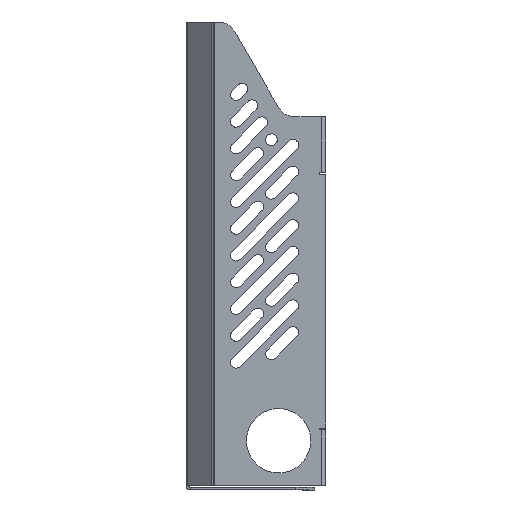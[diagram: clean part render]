
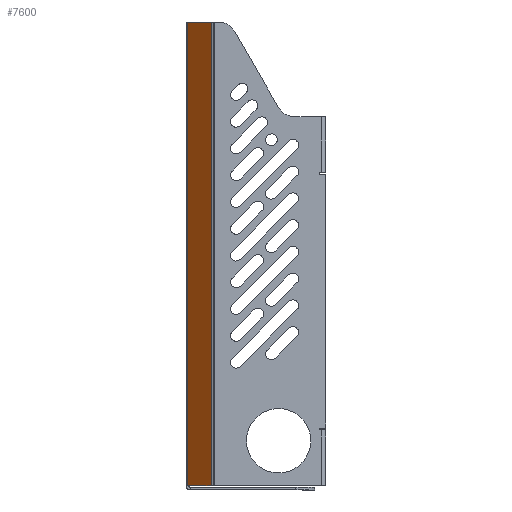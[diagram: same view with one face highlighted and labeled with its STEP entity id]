
A CAD part, left-side view. The second image highlights one B-rep face of the part: STEP entity #7600.
In plain terms, the highlighted planar face has unit normal (-0.707, 0.707, 0).
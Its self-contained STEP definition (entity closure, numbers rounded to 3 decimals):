
#57 = EDGE_CURVE ( 'NONE', #1929, #2245, #8469, .T. ) ;
#263 = CARTESIAN_POINT ( 'NONE',  ( -219.619, -13.498, -97.5 ) ) ;
#1063 = EDGE_CURVE ( 'NONE', #5464, #2245, #8307, .T. ) ;
#1428 = EDGE_CURVE ( 'NONE', #1929, #11400, #8061, .T. ) ;
#1459 = ORIENTED_EDGE ( 'NONE', *, *, #1063, .F. ) ;
#1504 = CARTESIAN_POINT ( 'NONE',  ( -217.899, -11.778, -97.5 ) ) ;
#1506 = DIRECTION ( 'NONE',  ( 0.707, 0.707, 0. ) ) ;
#1929 = VERTEX_POINT ( 'NONE', #1504 ) ;
#1951 = CARTESIAN_POINT ( 'NONE',  ( -205.28, 0.841, 147.5 ) ) ;
#2155 = CARTESIAN_POINT ( 'NONE',  ( -205.28, 0.841, 97.5 ) ) ;
#2188 = DIRECTION ( 'NONE',  ( -0.707, -0.707, 0. ) ) ;
#2245 = VERTEX_POINT ( 'NONE', #7374 ) ;
#2444 = VECTOR ( 'NONE', #2188, 1000. ) ;
#2497 = PLANE ( 'NONE',  #6474 ) ;
#2646 = VECTOR ( 'NONE', #10636, 1000. ) ;
#2729 = EDGE_LOOP ( 'NONE', ( #1459, #5041, #4734, #8347 ) ) ;
#3120 = CARTESIAN_POINT ( 'NONE',  ( -98.061, 108.061, 147.5 ) ) ;
#4093 = DIRECTION ( 'NONE',  ( 0., 0., 1. ) ) ;
#4734 = ORIENTED_EDGE ( 'NONE', *, *, #1428, .F. ) ;
#5041 = ORIENTED_EDGE ( 'NONE', *, *, #10682, .F. ) ;
#5059 = CARTESIAN_POINT ( 'NONE',  ( -98.061, 108.061, 0. ) ) ;
#5464 = VERTEX_POINT ( 'NONE', #1951 ) ;
#6474 = AXIS2_PLACEMENT_3D ( 'NONE', #5059, #8617, #1506 ) ;
#7374 = CARTESIAN_POINT ( 'NONE',  ( -217.899, -11.778, 147.5 ) ) ;
#7600 = ADVANCED_FACE ( 'NONE', ( #11421 ), #2497, .F. ) ;
#8061 = LINE ( 'NONE', #263, #2646 ) ;
#8307 = LINE ( 'NONE', #3120, #2444 ) ;
#8347 = ORIENTED_EDGE ( 'NONE', *, *, #57, .T. ) ;
#8444 = DIRECTION ( 'NONE',  ( 0., 0., 1. ) ) ;
#8469 = LINE ( 'NONE', #11211, #10792 ) ;
#8617 = DIRECTION ( 'NONE',  ( 0.707, -0.707, 0. ) ) ;
#9025 = VECTOR ( 'NONE', #8444, 1000. ) ;
#9779 = CARTESIAN_POINT ( 'NONE',  ( -205.28, 0.841, -97.5 ) ) ;
#10636 = DIRECTION ( 'NONE',  ( 0.707, 0.707, 0. ) ) ;
#10682 = EDGE_CURVE ( 'NONE', #11400, #5464, #11074, .T. ) ;
#10792 = VECTOR ( 'NONE', #4093, 1000. ) ;
#11074 = LINE ( 'NONE', #2155, #9025 ) ;
#11211 = CARTESIAN_POINT ( 'NONE',  ( -217.899, -11.778, -97.5 ) ) ;
#11400 = VERTEX_POINT ( 'NONE', #9779 ) ;
#11421 = FACE_OUTER_BOUND ( 'NONE', #2729, .T. ) ;
